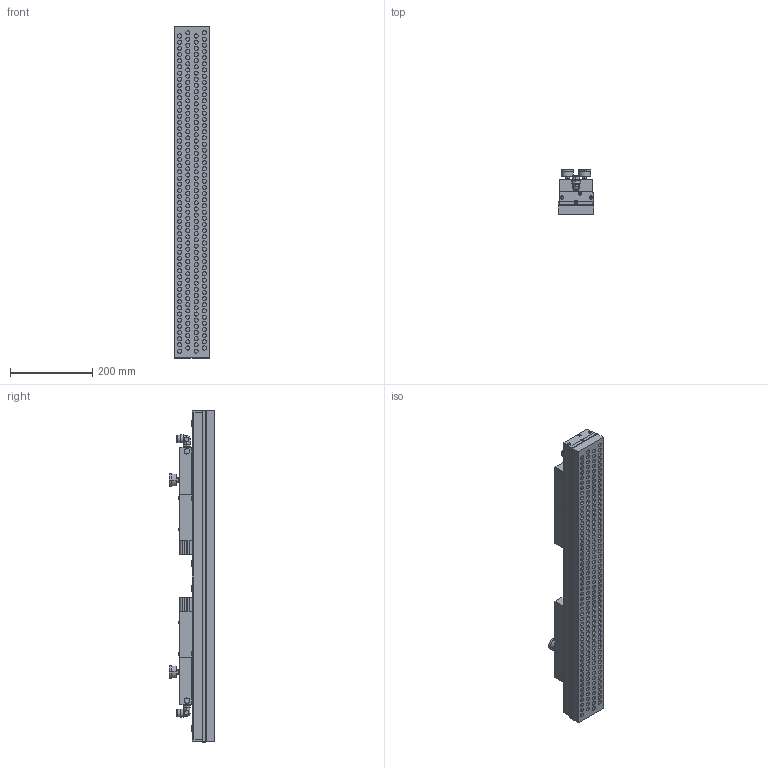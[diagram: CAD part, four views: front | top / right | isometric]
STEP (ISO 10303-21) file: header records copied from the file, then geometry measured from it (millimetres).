
FILE_DESCRIPTION (( 'STEP AP214' ), '1' );
FILE_NAME ('9671 080 016.STEP', '2012-09-12T11:04:56', ( 'cad' ), ( 'Microsoft' ), 'SwSTEP 2.0', 'SolidWorks 2012', '' );
FILE_SCHEMA (( 'AUTOMOTIVE_DESIGN' ));
Length unit declared in the file: millimetre
Products named in the file (1): 9671 080 016
Bounding box: 86 x 109.5 x 806 mm (x, y, z)
Volume: 4436076.7 mm3; surface area: 487234.7 mm2
Topology: 1 solids, 1 shells, 1414 faces, 3166 edges, 2042 vertices
Faces by surface type: plane 664, cylinder 616, cone 100, torus 16, sphere 10, bspline 8
Entity records: 53222 total; most frequent: CARTESIAN_POINT 7347, DIRECTION 7326, ORIENTED_EDGE 6324, EDGE_CURVE 3162, AXIS2_PLACEMENT_3D 2861, VERTEX_POINT 2042, EDGE_LOOP 1710, LINE 1604
